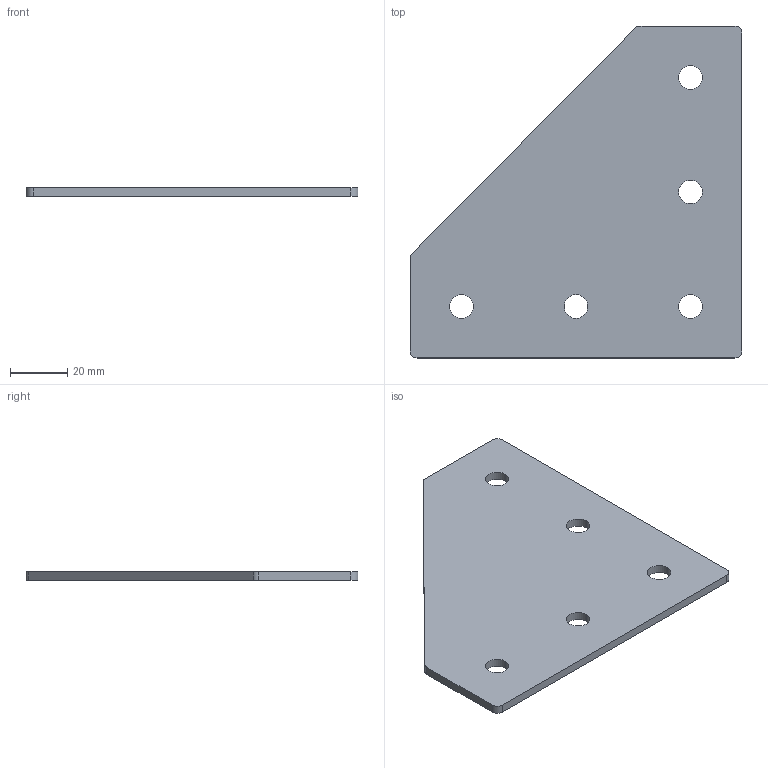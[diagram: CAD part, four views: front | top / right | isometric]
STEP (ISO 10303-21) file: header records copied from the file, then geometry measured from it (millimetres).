
FILE_DESCRIPTION (( 'STEP AP203' ), '1' );
FILE_NAME ('ﾃ-5-ﾓ-40.STEP', '2016-07-20T09:07:37', ( '' ), ( '' ), 'SwSTEP 2.0', 'SolidWorks 2014', '' );
FILE_SCHEMA (( 'CONFIG_CONTROL_DESIGN' ));
Length unit declared in the file: millimetre
Products named in the file (1): ﾃ-5-ﾓ-40
Bounding box: 116 x 116 x 3 mm (x, y, z)
Volume: 30023.6 mm3; surface area: 21643.7 mm2
Topology: 1 solids, 1 shells, 22 faces, 60 edges, 40 vertices
Faces by surface type: cylinder 15, plane 7
Entity records: 811 total; most frequent: DIRECTION 136, CARTESIAN_POINT 123, ORIENTED_EDGE 120, EDGE_CURVE 60, AXIS2_PLACEMENT_3D 53, VERTEX_POINT 40, EDGE_LOOP 32, LINE 30
